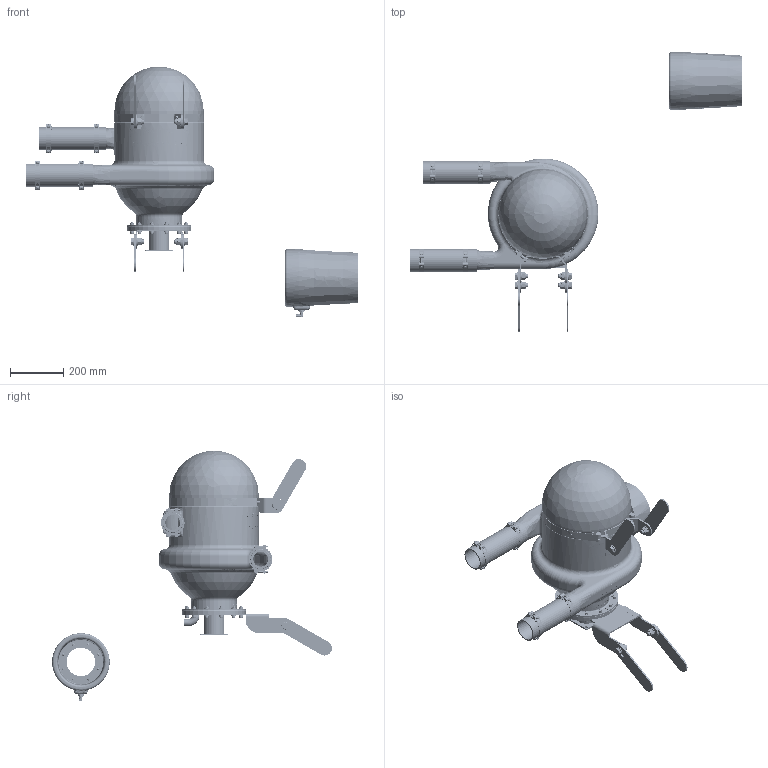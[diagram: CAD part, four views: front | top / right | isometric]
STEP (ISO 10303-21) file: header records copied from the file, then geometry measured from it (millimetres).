
FILE_DESCRIPTION(/* description */ (''),/* implementation_level */ '2;1');
FILE_NAME(/* name */ '1700113B.stp',/* time_stamp */ '2026-06-04T11:14:14+02:00',/* author */ ('JJ'),/* organization */ (''),/* preprocessor_version */ 'ST-DEVELOPER v20',/* originating_system */ 'Autodesk Inventor 2025',/* authorisation */ '');
FILE_SCHEMA (('AUTOMOTIVE_DESIGN { 1 0 10303 214 3 1 1 }'));
Length unit declared in the file: millimetre
Products named in the file (40): 1700113; 1633550; 1633551; 1633553; 1633554; 1633555; 1633552; 925200019; 925000776; 1633557; 1633520; 1633368; 1633521; 910000400; 910100148; 910200050; 910000460; 1633524; 910300433; 910100004; 910200120; 1633523; 1633545; 927000166; 918000285; 1633586; 1633587; 1633573; 922000269; 925000889; 1633592; 1633593; 1633591; 1633590; 1633589; 944600133; 1633581; 910100200; 910200105; 910100125
Assembly tree (128 placements, depth 4):
  1700113
    1633550
      1633551
      1633553
      1633554
      1633555
      1633552
      925200019
      925000776
    1633557
    1633520
    1633368  x2
    1633521  x4
    910100148  x8
    910000400  x4
    910200050  x4
    910100004  x24
    910200120  x12
    910000460  x2
    1633524  x2
    910300433  x12
    1633523
    1633545
    927000166  x2
    918000285  x4
    1633586
      1633587
      1633573
      922000269
      925000889
      1633592
      1633593
      1633591
        1633590
        1633589
      910100200  x8
      944600133
      1633581
      910200105  x8
      910100125  x8
Bounding box: 1247.18 x 1051.07 x 942.25 mm (x, y, z)
Volume: 11847928.5 mm3; surface area: 3571754.1 mm2
Topology: 162 solids, 163 shells, 6988 faces, 18127 edges, 11814 vertices
Faces by surface type: plane 3197, bspline 2259, cylinder 964, cone 393, torus 161, sphere 14
Full cylindrical faces by diameter (mm): 3.3 x4, 4.917 x24, 5 x8, 6 x33, 6.4 x8, 6.5 x8, 6.917 x12, 7 x16, 8 x14, 8.376 x2, 8.4 x24, 8.5 x12, 8.566 x1, 9.188 x2, 9.5 x1, 10 x46, 10.5 x2, 11 x5, 11.5 x1, 12 x26, 13 x12, 13.835 x4, 14 x2, 14.376 x1, 14.76 x1, 15.4 x2, 15.9 x1, 16 x6, 16.5 x2, 17 x34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
Entity records: 214675 total; most frequent: CARTESIAN_POINT 90152, ORIENTED_EDGE 28050, DIRECTION 18262, EDGE_CURVE 14025, VERTEX_POINT 9246, LINE 7654, VECTOR 7654, EDGE_LOOP 5915
